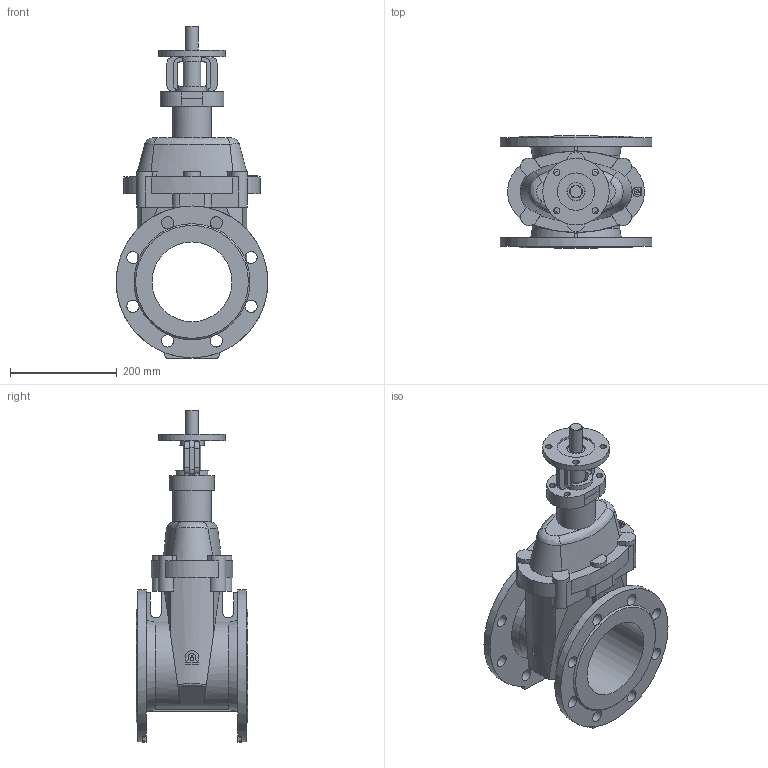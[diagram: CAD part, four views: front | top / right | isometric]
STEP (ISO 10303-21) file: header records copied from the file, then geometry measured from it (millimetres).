
FILE_DESCRIPTION(('STEP AP203'), '1');
FILE_NAME('Çàäâèæêà 47GV.M DN150 ñ ïåðåõîäîì ïîä ISO ôëàíåö', '', ('UNSPECIFIED'), ('UNSPECIFIED'), 'ASCON STEP Converter 1.6', 'ASCON Math Kernel', '');
FILE_SCHEMA(('CONFIG_CONTROL_DESIGN'));
Length unit declared in the file: millimetre
Bounding box: 285 x 210 x 623.5 mm (x, y, z)
Volume: 7382302.3 mm3; surface area: 661629 mm2
Topology: 1 solids, 1 shells, 254 faces, 744 edges, 493 vertices
Faces by surface type: plane 124, cylinder 113, bspline 10, cone 7
Full cylindrical faces by diameter (mm): 12 x8, 23 x16, 24 x2, 33 x1, 34 x1, 46 x1, 70 x2, 73 x1, 125 x1, 150 x1, 285 x2
Entity records: 14650 total; most frequent: CARTESIAN_POINT 5903, ORIENTED_EDGE 1410, DIRECTION 1348, EDGE_CURVE 705, AXIS2_PLACEMENT_3D 517, VERTEX_POINT 493, EDGE_LOOP 348, LINE 314
